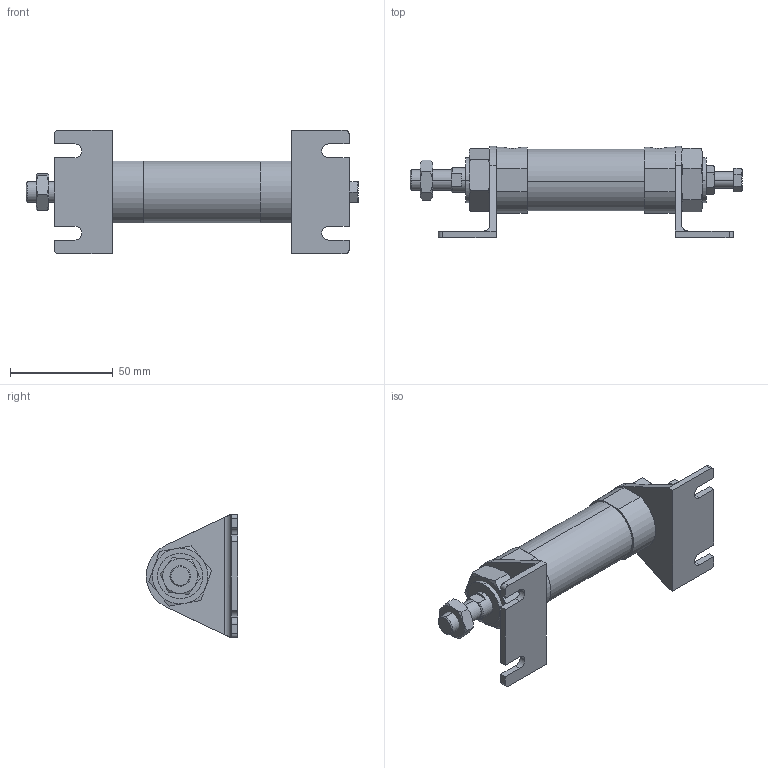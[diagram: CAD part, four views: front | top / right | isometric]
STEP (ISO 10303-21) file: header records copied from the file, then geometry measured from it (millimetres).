
FILE_DESCRIPTION (( 'STEP AP203' ), '1' );
FILE_NAME ('JGA2-25-25-L.STEP', '2016-04-20T05:06:26', ( '' ), ( '' ), 'SwSTEP 2.0', 'SolidWorks 2014', '' );
FILE_SCHEMA (( 'CONFIG_CONTROL_DESIGN' ));
Length unit declared in the file: millimetre
Products named in the file (7): 25-25; M22x1.5-10mm; JGA2-25A; M10x1.5-6mm; JGA2-25-25-L; J#2-25-L; JGLH2-25B
Assembly tree (8 placements, depth 2):
  JGA2-25-25-L
    JGLH2-25B
    25-25
    JGA2-25A
    M10x1.5-6mm
    J#2-25-L  x2
    M22x1.5-10mm  x2
Bounding box: 161.5 x 44.5 x 60 mm (x, y, z)
Volume: 101452.8 mm3; surface area: 35804.9 mm2
Topology: 8 solids, 8 shells, 198 faces, 460 edges, 284 vertices
Faces by surface type: plane 90, cylinder 52, torus 48, cone 8
Entity records: 5451 total; most frequent: CARTESIAN_POINT 1359, DIRECTION 694, ORIENTED_EDGE 676, EDGE_CURVE 338, AXIS2_PLACEMENT_3D 277, VERTEX_POINT 210, EDGE_LOOP 166, ADVANCED_FACE 150
